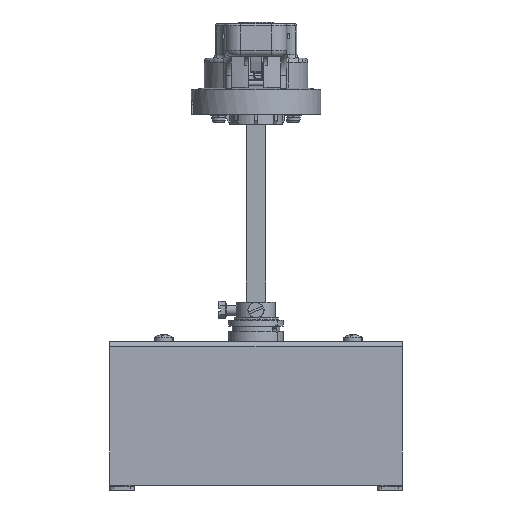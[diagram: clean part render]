
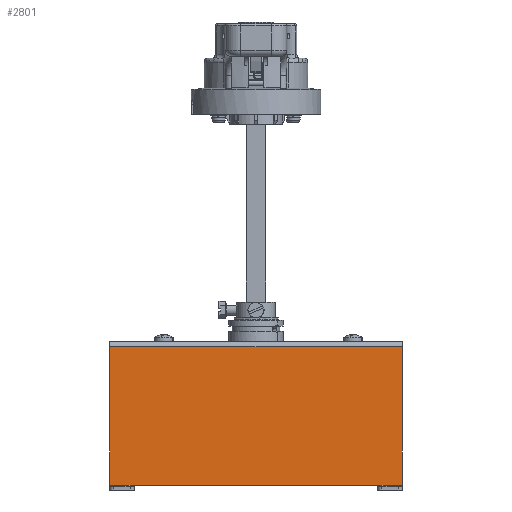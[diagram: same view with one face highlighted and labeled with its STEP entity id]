
A CAD part, front view. The second image highlights one B-rep face of the part: STEP entity #2801.
In plain terms, the highlighted planar face has unit normal (0, -1, 0).
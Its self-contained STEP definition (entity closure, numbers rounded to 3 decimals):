
#1377=PLANE('',#30384);
#2801=ADVANCED_FACE('',(#4930),#1377,.F.);
#4930=FACE_OUTER_BOUND('',#6545,.T.);
#6545=EDGE_LOOP('',(#14671,#14672,#14673,#14674,#14675,#14676));
#8662=LINE('',#42942,#11141);
#8691=LINE('',#43044,#11170);
#8697=LINE('',#43055,#11176);
#8698=LINE('',#43057,#11177);
#8699=LINE('',#43058,#11178);
#8700=LINE('',#43060,#11179);
#11141=VECTOR('',#33920,1.);
#11170=VECTOR('',#34011,1.);
#11176=VECTOR('',#34019,1.);
#11177=VECTOR('',#34022,1.);
#11178=VECTOR('',#34023,1.);
#11179=VECTOR('',#34024,1.);
#14671=ORIENTED_EDGE('',*,*,#25273,.F.);
#14672=ORIENTED_EDGE('',*,*,#25330,.T.);
#14673=ORIENTED_EDGE('',*,*,#25331,.F.);
#14674=ORIENTED_EDGE('',*,*,#25324,.T.);
#14675=ORIENTED_EDGE('',*,*,#25332,.F.);
#14676=ORIENTED_EDGE('',*,*,#25333,.F.);
#22255=VERTEX_POINT('',#42943);
#22256=VERTEX_POINT('',#42944);
#22295=VERTEX_POINT('',#43042);
#22297=VERTEX_POINT('',#43045);
#22300=VERTEX_POINT('',#43054);
#22301=VERTEX_POINT('',#43059);
#25273=EDGE_CURVE('',#22255,#22256,#8662,.T.);
#25324=EDGE_CURVE('',#22297,#22295,#8691,.T.);
#25330=EDGE_CURVE('',#22255,#22300,#8697,.T.);
#25331=EDGE_CURVE('',#22297,#22300,#8698,.T.);
#25332=EDGE_CURVE('',#22301,#22295,#8699,.T.);
#25333=EDGE_CURVE('',#22256,#22301,#8700,.T.);
#30384=AXIS2_PLACEMENT_3D('',#43061,#34025,#34026);
#33920=DIRECTION('',(-1.,0.,0.));
#34011=DIRECTION('',(0.,0.,-1.));
#34019=DIRECTION('',(0.,0.,1.));
#34022=DIRECTION('',(1.,0.,0.));
#34023=DIRECTION('',(-1.,0.,0.));
#34024=DIRECTION('',(-1.,0.,0.));
#34025=DIRECTION('',(0.,1.,0.));
#34026=DIRECTION('',(0.,0.,-1.));
#42942=CARTESIAN_POINT('',(75.,-90.,-71.5));
#42943=CARTESIAN_POINT('',(75.,-90.,-71.5));
#42944=CARTESIAN_POINT('',(62.5,-90.,-71.5));
#43042=CARTESIAN_POINT('',(-75.,-90.,-71.5));
#43044=CARTESIAN_POINT('',(-75.,-90.,0.));
#43045=CARTESIAN_POINT('',(-75.,-90.,-0.5));
#43054=CARTESIAN_POINT('',(75.,-90.,-0.5));
#43055=CARTESIAN_POINT('',(75.,-90.,0.));
#43057=CARTESIAN_POINT('',(75.,-90.,-0.5));
#43058=CARTESIAN_POINT('',(75.,-90.,-71.5));
#43059=CARTESIAN_POINT('',(-62.5,-90.,-71.5));
#43060=CARTESIAN_POINT('',(75.,-90.,-71.5));
#43061=CARTESIAN_POINT('',(0.,-90.,0.));
